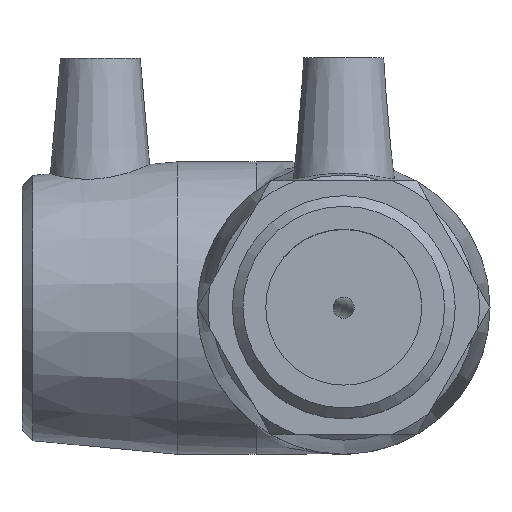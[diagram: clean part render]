
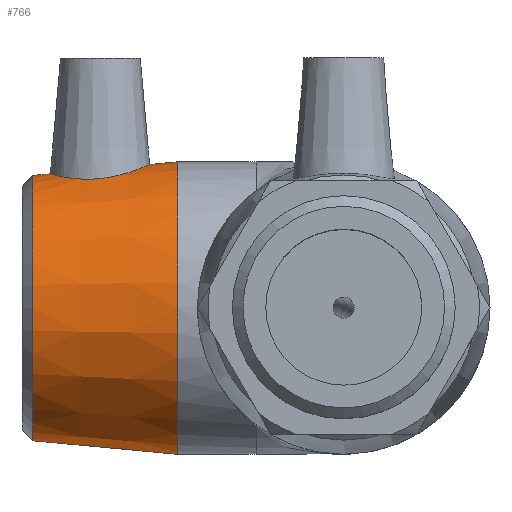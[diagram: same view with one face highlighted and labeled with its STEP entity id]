
A CAD part, top view. The second image highlights one B-rep face of the part: STEP entity #766.
In plain terms, the highlighted conical face has half-angle 5.356 degrees and reference radius 26.125 mm.
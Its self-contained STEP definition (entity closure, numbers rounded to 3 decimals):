
#78=B_SPLINE_CURVE_WITH_KNOTS('',3,(#1229,#1230,#1231,#1232,#1233,#1234,
#1235,#1236,#1237,#1238,#1239,#1240,#1241,#1242,#1243,#1244,#1245,#1246,
#1247,#1248,#1249,#1250,#1251,#1252,#1253,#1254,#1255,#1256,#1257,#1258,
#1259,#1260,#1261,#1262),.UNSPECIFIED.,.T.,.F.,(4,2,2,2,2,2,2,2,2,2,2,2,
2,2,2,2,4),(0.,0.347,0.693,1.043,1.392,
1.742,2.091,2.438,2.784,3.158,
3.532,3.896,4.261,4.626,4.991,
5.365,5.738),.UNSPECIFIED.);
#82=CONICAL_SURFACE('',#839,26.125,5.356);
#133=FACE_BOUND('',#243,.T.);
#134=FACE_BOUND('',#244,.T.);
#175=FACE_OUTER_BOUND('',#242,.T.);
#242=EDGE_LOOP('',(#568));
#243=EDGE_LOOP('',(#569));
#244=EDGE_LOOP('',(#570));
#338=CIRCLE('',#838,24.937);
#339=CIRCLE('',#840,27.5);
#389=VERTEX_POINT('',#1223);
#390=VERTEX_POINT('',#1226);
#391=VERTEX_POINT('',#1228);
#466=EDGE_CURVE('',#389,#389,#338,.T.);
#467=EDGE_CURVE('',#390,#390,#339,.T.);
#468=EDGE_CURVE('',#391,#391,#78,.T.);
#568=ORIENTED_EDGE('',*,*,#467,.F.);
#569=ORIENTED_EDGE('',*,*,#468,.T.);
#570=ORIENTED_EDGE('',*,*,#466,.F.);
#766=ADVANCED_FACE('',(#175,#133,#134),#82,.T.);
#838=AXIS2_PLACEMENT_3D('',#1224,#968,#969);
#839=AXIS2_PLACEMENT_3D('',#1225,#970,#971);
#840=AXIS2_PLACEMENT_3D('',#1227,#972,#973);
#968=DIRECTION('center_axis',(-1.,0.,0.));
#969=DIRECTION('ref_axis',(0.,-1.,0.));
#970=DIRECTION('center_axis',(1.,0.,0.));
#971=DIRECTION('ref_axis',(0.,1.,0.));
#972=DIRECTION('center_axis',(1.,0.,0.));
#973=DIRECTION('ref_axis',(0.,0.,-1.));
#1223=CARTESIAN_POINT('',(-58.509,24.937,0.));
#1224=CARTESIAN_POINT('Origin',(-58.509,0.,0.));
#1225=CARTESIAN_POINT('Origin',(-45.833,0.,
0.));
#1226=CARTESIAN_POINT('',(-31.167,27.5,0.));
#1227=CARTESIAN_POINT('Origin',(-31.167,0.,
0.));
#1228=CARTESIAN_POINT('',(-46.155,24.313,9.477));
#1229=CARTESIAN_POINT('Ctrl Pts',(-46.155,24.313,9.477));
#1230=CARTESIAN_POINT('Ctrl Pts',(-47.305,24.213,9.437));
#1231=CARTESIAN_POINT('Ctrl Pts',(-48.526,24.2,9.165));
#1232=CARTESIAN_POINT('Ctrl Pts',(-50.752,24.339,8.155));
#1233=CARTESIAN_POINT('Ctrl Pts',(-51.758,24.485,7.417));
#1234=CARTESIAN_POINT('Ctrl Pts',(-53.342,24.777,5.748));
#1235=CARTESIAN_POINT('Ctrl Pts',(-54.028,24.944,4.698));
#1236=CARTESIAN_POINT('Ctrl Pts',(-54.939,25.183,2.407));
#1237=CARTESIAN_POINT('Ctrl Pts',(-55.163,25.25,1.165));
#1238=CARTESIAN_POINT('Ctrl Pts',(-55.163,25.25,-1.165));
#1239=CARTESIAN_POINT('Ctrl Pts',(-54.939,25.183,-2.407));
#1240=CARTESIAN_POINT('Ctrl Pts',(-54.028,24.944,-4.698));
#1241=CARTESIAN_POINT('Ctrl Pts',(-53.342,24.777,-5.748));
#1242=CARTESIAN_POINT('Ctrl Pts',(-51.758,24.485,-7.417));
#1243=CARTESIAN_POINT('Ctrl Pts',(-50.752,24.339,-8.155));
#1244=CARTESIAN_POINT('Ctrl Pts',(-48.526,24.2,-9.165));
#1245=CARTESIAN_POINT('Ctrl Pts',(-47.305,24.213,-9.437));
#1246=CARTESIAN_POINT('Ctrl Pts',(-44.915,24.422,-9.519));
#1247=CARTESIAN_POINT('Ctrl Pts',(-43.608,24.644,-9.297));
#1248=CARTESIAN_POINT('Ctrl Pts',(-41.222,25.22,-8.338));
#1249=CARTESIAN_POINT('Ctrl Pts',(-40.142,25.568,-7.602));
#1250=CARTESIAN_POINT('Ctrl Pts',(-38.456,26.172,-5.912));
#1251=CARTESIAN_POINT('Ctrl Pts',(-37.728,26.471,-4.85));
#1252=CARTESIAN_POINT('Ctrl Pts',(-36.755,26.886,-2.503));
#1253=CARTESIAN_POINT('Ctrl Pts',(-36.51,26.999,-1.216));
#1254=CARTESIAN_POINT('Ctrl Pts',(-36.51,26.999,1.216));
#1255=CARTESIAN_POINT('Ctrl Pts',(-36.755,26.886,2.503));
#1256=CARTESIAN_POINT('Ctrl Pts',(-37.728,26.471,4.85));
#1257=CARTESIAN_POINT('Ctrl Pts',(-38.456,26.172,5.912));
#1258=CARTESIAN_POINT('Ctrl Pts',(-40.142,25.568,7.602));
#1259=CARTESIAN_POINT('Ctrl Pts',(-41.222,25.22,8.338));
#1260=CARTESIAN_POINT('Ctrl Pts',(-43.608,24.644,9.297));
#1261=CARTESIAN_POINT('Ctrl Pts',(-44.915,24.422,9.519));
#1262=CARTESIAN_POINT('Ctrl Pts',(-46.155,24.313,9.477));
